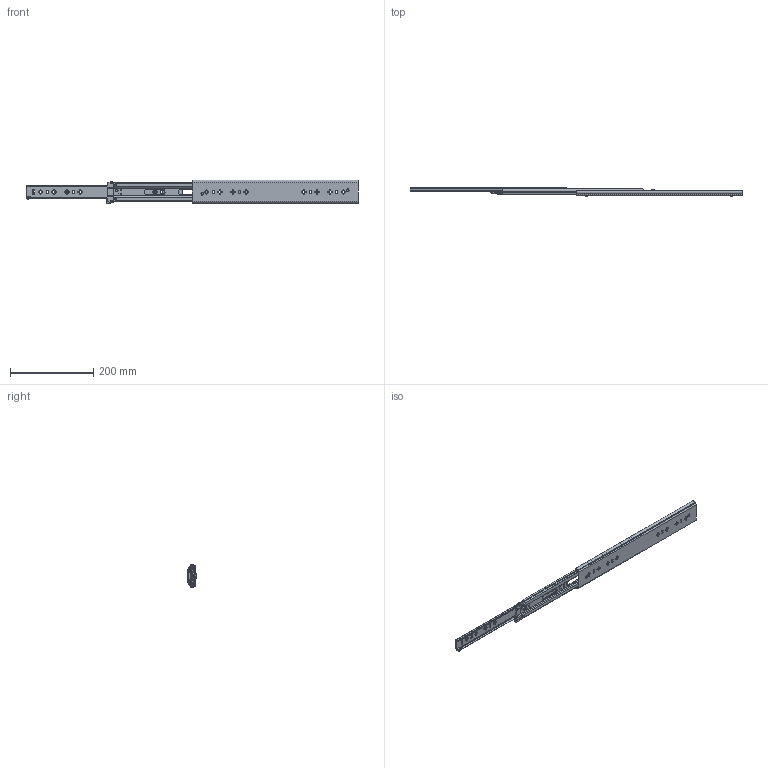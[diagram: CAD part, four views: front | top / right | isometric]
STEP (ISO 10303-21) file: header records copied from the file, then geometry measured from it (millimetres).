
FILE_DESCRIPTION((''),'2;1');
FILE_NAME('1057-C-16_ASM','2025-10-22T',('蔽翩'),(''),'CREO PARAMETRIC BY PTC INC, 2018220','CREO PARAMETRIC BY PTC INC, 2018220','');
FILE_SCHEMA(('CONFIG_CONTROL_DESIGN'));
Length unit declared in the file: millimetre
Products named in the file (20): KP-57-01WEIKE-31__; MAODING-WAI__; 1057DAZHUJIA-20GE1__; 1057ZHUJIADANWEIJIAO12________; 1057-5-6GANZHU1__; 1057DAZHUJIA-20GE_11______ASM; 1057-C-20-KE___ASM; KP-57-01ZHONGGUI-28_______; PEIJIAN-22__; ZHUANJIAO112__; LIUJIAO-DING11__; 1057-XIAOJIAOLUN22; PEIJIAN-ZHONG___ASM; 1057XIAOZHUJIA___20___; 1057XIAOZHUJIA-20GE____ASM; KP-57-01ZHONGGUI-28________ASM; KP-57-01NEIGUI-241__; XIN-JIAOGUAN22; KP-57-01NEIGUI-241___ASM; 1057-C-16_ASM
Assembly tree (66 placements, depth 4):
  1057-C-16_ASM
    1057-C-20-KE___ASM
      KP-57-01WEIKE-31__
      MAODING-WAI__  x2
      1057DAZHUJIA-20GE_11______ASM
        1057DAZHUJIA-20GE1__
        1057ZHUJIADANWEIJIAO12________  x2
        1057-5-6GANZHU1__  x20
    KP-57-01ZHONGGUI-28________ASM
      KP-57-01ZHONGGUI-28_______
      PEIJIAN-ZHONG___ASM  x2
        PEIJIAN-22__
        ZHUANJIAO112__
        LIUJIAO-DING11__
        1057-XIAOJIAOLUN22
      MAODING-WAI__  x2
      1057XIAOZHUJIA-20GE____ASM
        1057XIAOZHUJIA___20___
        1057-5-6GANZHU1__  x20
        1057ZHUJIADANWEIJIAO12________  x2
    KP-57-01NEIGUI-241___ASM
      KP-57-01NEIGUI-241__
      XIN-JIAOGUAN22  x2
Bounding box: 800 x 19.8 x 57.67 mm (x, y, z)
Volume: 164484.1 mm3; surface area: 188164.8 mm2
Topology: 63 solids, 63 shells, 2070 faces, 5688 edges, 3578 vertices
Faces by surface type: plane 924, cylinder 804, torus 96, sphere 86, cone 78, bspline 74, extrusion 8
Entity records: 55118 total; most frequent: CARTESIAN_POINT 12320, DIRECTION 9036, ORIENTED_EDGE 8882, EDGE_CURVE 4441, AXIS2_PLACEMENT_3D 3156, VERTEX_POINT 2867, VECTOR 2724, LINE 2720
